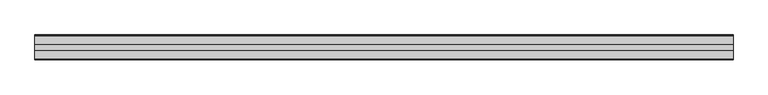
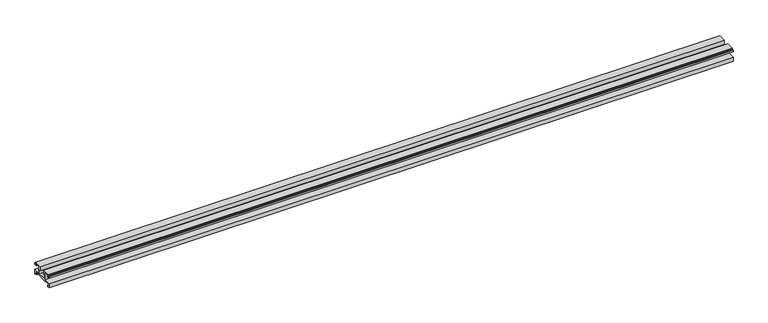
"""IFC4 building model written with IfcOpenShell, lengths in millimetres: proxy geometry, Weiku - Montante - Acoplamento vidro : Weiku - Montante - Acoplamento vidro."""

from ifc_helpers import new_model, si_unit, frame, origin, place, context, project, spatial, polyline, outline, extrude, source, transform, mapped, element, save


def generic_models_eaf5f641(model_context):
    return source(origin(), model_context, "Body", "SweptSolid", [
        extrude(outline(polyline([(35.405, 5.1494), (12.495, 5.1494), (12.495, 6.8004), (2.159, 6.8004), (2.159, 2.6094), (4.0216, 2.6094), (4.0216, 0.0), (-0.0014508, 0.0), (-0.0014508, 8.79), (12.954, 8.79), (12.954, 23.3104), (4.3603, 23.3104), (4.3603, 19.204), (0.0, 19.204), (0.0, 22.8024), (0.9736, 22.8024), (0.9736, 20.3894), (3.175, 20.3894), (3.175, 23.9454), (2.3735496, 23.9454), (2.3735496, 25.3), (17.4836, 25.3), (17.4836, 16.283), (15.4516, 16.283), (15.4516, 8.8), (32.4484, 8.8), (32.4484, 16.283), (30.4164, 16.283), (30.4164, 25.3), (45.5264504, 25.3), (45.5264504, 23.9454), (44.725, 23.9454), (44.725, 20.3894), (46.9264, 20.3894), (46.9264, 22.8024), (47.9, 22.8024), (47.9, 19.204), (43.5397, 19.204), (43.5397, 23.3104), (34.946, 23.3104), (34.946, 8.79), (47.9014508, 8.79), (47.9014508, 0.0), (43.8784, 0.0), (43.8784, 2.6094), (45.741, 2.6094), (45.741, 6.8004), (35.405, 6.8004), (35.405, 5.1494)])), frame((-666.8166667, 0.0, 0.0), z_axis=(1.0, 0.0, 0.0), x_axis=(0.0, 1.0, 0.0)), (0.0, 0.0, 1.0), 1333.6333333),
    ])


if __name__ == "__main__":
    model = new_model("IFC4")
    model_context = context("Model", 3, world=origin())
    ifc_project = project(units=[si_unit("LENGTHUNIT", "METRE", prefix="MILLI")], contexts=[model_context])
    site = spatial("IfcSite", under=ifc_project)
    building = spatial("IfcBuilding", under=site)
    placement = place(None, origin())
    generic_models_shape = generic_models_eaf5f641(model_context)
    element("IfcBuildingElementProxy", 1, Name="Weiku - Montante - Acoplamento vidro : Weiku - Montante - Acoplamento vidro", ObjectType="Weiku - Montante - Acoplamento vidro : Weiku - Montante - Acoplamento vidro", at=placement, inside=building, context=model_context, shape_type="MappedRepresentation", body=[
        mapped(generic_models_shape, transform((0.0, 0.0, 0.0), x_axis=(1.0, 0.0, 0.0), y_axis=(0.0, 1.0, 0.0), z_axis=(0.0, 0.0, 1.0))),
    ])
    save(model, "model.ifc")
